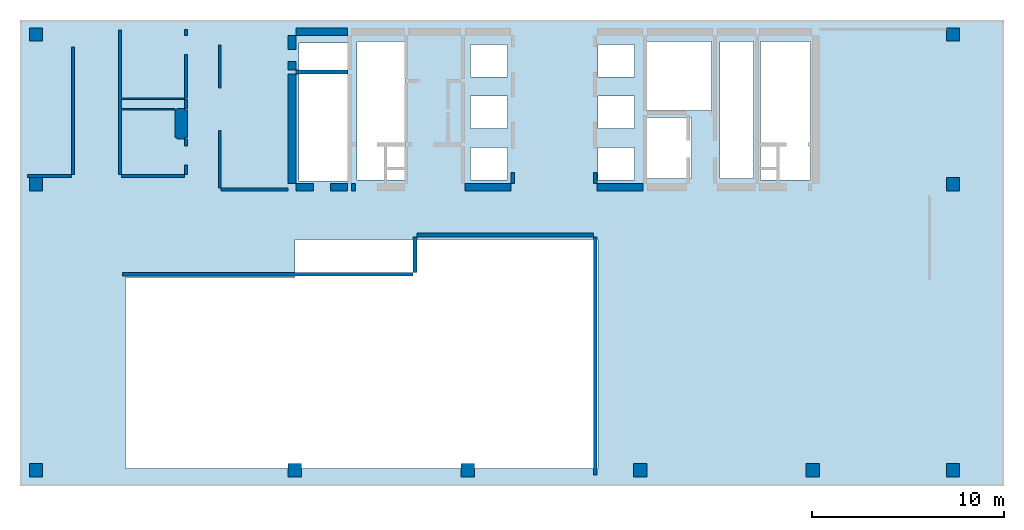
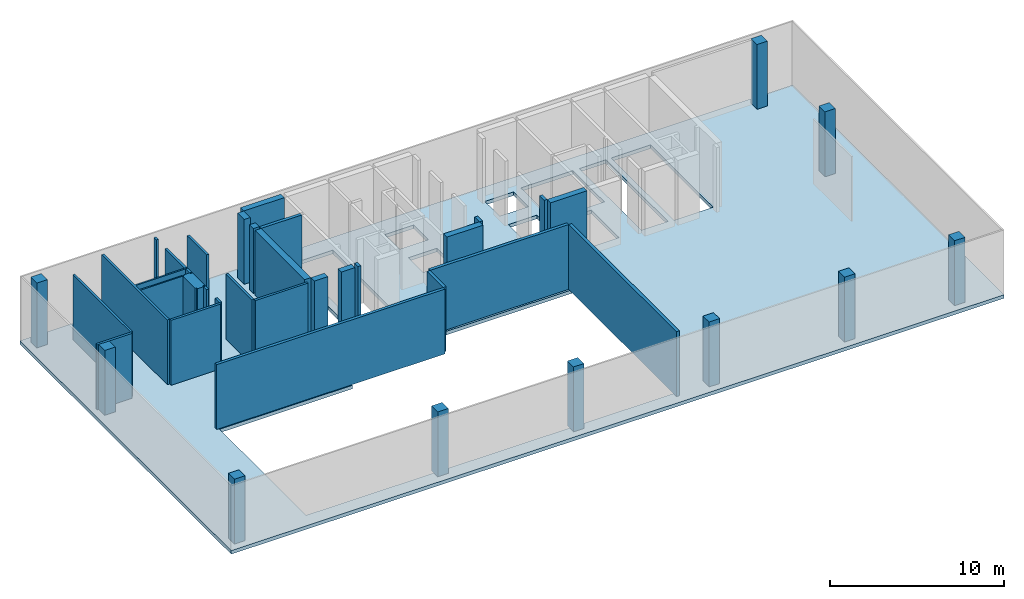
# One storey, part 1 of 3: 29 walls, 10 columns, 1 slab.
"""IFC4 building model written with IfcOpenShell, lengths in millimetres."""

from ifc_helpers import new_model, si_unit, frame, origin, place, context, project, spatial, triangles, element, save


model = new_model("IFC4")

# Units and contexts
model_context = context("Model", 3, precision=0.001, world=origin())
ifc_project = project(units=[si_unit("LENGTHUNIT", "METRE", prefix="MILLI"), si_unit("AREAUNIT", "SQUARE_METRE"), si_unit("VOLUMEUNIT", "CUBIC_METRE")], contexts=[model_context])

# Site, building, storey
site_placement = place(None, origin())
site = spatial("IfcSite", under=ifc_project, at=site_placement, Name="Site", CompositionType="ELEMENT")
building_placement = place(site_placement, origin())
building = spatial("IfcBuilding", under=site, at=building_placement, Name="INNOCEAN", CompositionType="ELEMENT")
storey_placement = place(building_placement, frame((0.0, 0.0, 25400.0)))
storey = spatial("IfcBuildingStorey", under=building, at=storey_placement, Name="F06", CompositionType="ELEMENT", Elevation=25400.0)

# Columns
column_1_placement = place(storey_placement, origin())
element("IfcColumn", 1, at=column_1_placement, inside=storey, Name="F06_Columns_F06_001", context=model_context, shape_type="Tessellation", body=[
    triangles([(40114.8, 2023.7, 0.0), (40114.8, 2722.3, 4550.0), (40114.8, 2722.3, 0.0), (40114.8, 2023.7, 4550.0), (40813.0, 2722.3, 4550.0), (40813.0, 2023.7, 0.0), (40813.0, 2722.3, 0.0), (40813.0, 2023.7, 4550.0)], [[1, 2, 3], [1, 4, 2], [5, 6, 7], [8, 6, 5], [6, 8, 1], [1, 8, 4], [5, 7, 3], [5, 3, 2], [3, 7, 1], [1, 7, 6], [5, 2, 4], [5, 4, 8]], closed=True),
])
column_2_placement = place(storey_placement, origin())
element("IfcColumn", 2, at=column_2_placement, inside=storey, Name="F06_Columns_F06_002", context=model_context, shape_type="Tessellation", body=[
    triangles([(47413.4, 24721.0, 0.0), (47413.4, 24721.0, 4550.0), (47413.4, 25419.5, 0.0), (47413.4, 25419.5, 4550.0), (48111.6, 24721.0, 4550.0), (48111.6, 24721.0, 0.0), (48111.6, 25419.5, 0.0), (48111.6, 25419.5, 4550.0)], [[1, 2, 3], [3, 2, 4], [5, 6, 7], [5, 7, 8], [6, 5, 1], [1, 5, 2], [8, 7, 3], [8, 3, 4], [1, 3, 6], [3, 7, 6], [4, 2, 5], [8, 4, 5]], closed=True),
])
column_3_placement = place(storey_placement, origin())
element("IfcColumn", 3, at=column_3_placement, inside=storey, Name="F06_Columns_F06_003", context=model_context, shape_type="Tessellation", body=[
    triangles([(47413.4, 16922.4, 0.0), (47413.4, 16922.4, 4550.0), (47413.4, 17620.9, 0.0), (47413.4, 17620.9, 4550.0), (48111.6, 16922.4, 4550.0), (48111.6, 16922.4, 0.0), (48111.6, 17620.9, 0.0), (48111.6, 17620.9, 4550.0)], [[1, 2, 3], [3, 2, 4], [5, 6, 7], [5, 7, 8], [6, 5, 1], [1, 5, 2], [8, 7, 3], [8, 3, 4], [1, 3, 6], [3, 7, 6], [4, 2, 5], [8, 4, 5]], closed=True),
])
column_4_placement = place(storey_placement, origin())
element("IfcColumn", 4, at=column_4_placement, inside=storey, Name="F06_Columns_F06_004", context=model_context, shape_type="Tessellation", body=[
    triangles([(13129.0, 2023.7, 0.0), (13129.0, 2722.3, 4550.0), (13129.0, 2722.3, 0.0), (13129.0, 2023.7, 4550.0), (13827.2, 2722.3, 4550.0), (13827.2, 2023.7, 0.0), (13827.2, 2722.3, 0.0), (13827.2, 2023.7, 4550.0)], [[1, 2, 3], [1, 4, 2], [5, 6, 7], [8, 6, 5], [6, 8, 1], [1, 8, 4], [5, 7, 3], [5, 3, 2], [3, 7, 1], [1, 7, 6], [5, 2, 4], [5, 4, 8]], closed=True),
])
column_5_placement = place(storey_placement, origin())
element("IfcColumn", 5, at=column_5_placement, inside=storey, Name="F06_Columns_F06_005", context=model_context, shape_type="Tessellation", body=[
    triangles([(47413.4, 2023.7, 0.0), (47413.4, 2722.3, 4550.0), (47413.4, 2722.3, 0.0), (47413.4, 2023.7, 4550.0), (48111.6, 2722.3, 4550.0), (48111.6, 2023.7, 0.0), (48111.6, 2722.3, 0.0), (48111.6, 2023.7, 4550.0)], [[1, 2, 3], [1, 4, 2], [5, 6, 7], [8, 6, 5], [6, 8, 1], [1, 8, 4], [5, 7, 3], [5, 3, 2], [3, 7, 1], [1, 7, 6], [5, 2, 4], [5, 4, 8]], closed=True),
])
column_6_placement = place(storey_placement, origin())
element("IfcColumn", 6, at=column_6_placement, inside=storey, Name="F06_Columns_F06_006", context=model_context, shape_type="Tessellation", body=[
    triangles([(-363.9, 2023.7, 0.0), (-363.9, 2722.3, 4550.0), (-363.9, 2722.3, 0.0), (-363.9, 2023.7, 4550.0), (334.3, 2722.3, 4550.0), (334.3, 2023.7, 0.0), (334.3, 2722.3, 0.0), (334.3, 2023.7, 4550.0)], [[1, 2, 3], [1, 4, 2], [5, 6, 7], [8, 6, 5], [6, 8, 1], [1, 8, 4], [5, 7, 3], [5, 3, 2], [3, 7, 1], [1, 7, 6], [5, 2, 4], [5, 4, 8]], closed=True),
])
column_7_placement = place(storey_placement, origin())
element("IfcColumn", 7, at=column_7_placement, inside=storey, Name="F06_Columns_F06_007", context=model_context, shape_type="Tessellation", body=[
    triangles([(-363.9, 24721.0, 0.0), (-363.9, 24721.0, 4550.0), (-363.9, 25419.5, 0.0), (-363.9, 25419.5, 4550.0), (334.3, 24721.0, 4550.0), (334.3, 24721.0, 0.0), (334.3, 25419.5, 0.0), (334.3, 25419.5, 4550.0)], [[1, 2, 3], [3, 2, 4], [5, 6, 7], [5, 7, 8], [6, 5, 1], [1, 5, 2], [8, 7, 3], [8, 3, 4], [3, 7, 1], [1, 7, 6], [8, 4, 2], [8, 2, 5]], closed=True),
])
column_8_placement = place(storey_placement, origin())
element("IfcColumn", 8, at=column_8_placement, inside=storey, Name="F06_Columns_F06_008", context=model_context, shape_type="Tessellation", body=[
    triangles([(31128.0, 2023.7, 0.0), (31128.0, 2722.3, 4550.0), (31128.0, 2722.3, 0.0), (31128.0, 2023.7, 4550.0), (31826.2, 2722.3, 4550.0), (31826.2, 2023.7, 0.0), (31826.2, 2722.3, 0.0), (31826.2, 2023.7, 4550.0)], [[1, 2, 3], [1, 4, 2], [5, 6, 7], [8, 6, 5], [6, 8, 1], [1, 8, 4], [5, 7, 3], [5, 3, 2], [3, 7, 1], [1, 7, 6], [5, 2, 4], [5, 4, 8]], closed=True),
])
column_9_placement = place(storey_placement, origin())
element("IfcColumn", 9, at=column_9_placement, inside=storey, Name="F06_Columns_F06_009", context=model_context, shape_type="Tessellation", body=[
    triangles([(22128.5, 2023.7, 0.0), (22128.5, 2722.3, 4550.0), (22128.5, 2722.3, 0.0), (22128.5, 2023.7, 4550.0), (22826.7, 2722.3, 4550.0), (22826.7, 2023.7, 0.0), (22826.7, 2722.3, 0.0), (22826.7, 2023.7, 4550.0)], [[1, 2, 3], [1, 4, 2], [5, 6, 7], [8, 6, 5], [6, 8, 1], [1, 8, 4], [5, 7, 3], [5, 3, 2], [3, 7, 1], [1, 7, 6], [5, 2, 4], [5, 4, 8]], closed=True),
])
column_10_placement = place(storey_placement, origin())
element("IfcColumn", 10, at=column_10_placement, inside=storey, Name="F06_Columns_F06_010", context=model_context, shape_type="Tessellation", body=[
    triangles([(-363.9, 16922.4, 0.0), (-363.9, 16922.4, 4550.0), (-363.9, 17620.9, 0.0), (-363.9, 17620.9, 4550.0), (334.3, 16922.4, 4550.0), (334.3, 16922.4, 0.0), (334.3, 17620.9, 0.0), (334.3, 17620.9, 4550.0)], [[1, 2, 3], [3, 2, 4], [5, 6, 7], [5, 7, 8], [6, 5, 1], [1, 5, 2], [8, 7, 3], [8, 3, 4], [3, 7, 1], [1, 7, 6], [8, 4, 2], [8, 2, 5]], closed=True),
])

# Slab
slab_placement = place(storey_placement, origin())
element("IfcSlab", 11, at=slab_placement, inside=storey, Name="F06_Slab_F06_001", context=model_context, shape_type="Tessellation", body=[
    triangles([(-846.215139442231, 25825.974025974, 0.0), (50420.3187250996, 25825.974025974, -250.0), (-846.215139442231, 25825.974025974, -250.0), (50420.3187250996, 25825.974025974, 0.0), (-846.215139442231, 1552.38095238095, 0.0), (-846.215139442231, 1552.38095238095, -250.0), (50420.3187250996, 1552.38095238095, 0.0), (50420.3187250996, 1552.38095238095, -250.0), (13468.9243027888, 12419.0476190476, 0.0), (4654.18326693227, 12419.0476190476, 0.0), (4654.18326693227, 12419.0476190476, -250.0), (13468.9243027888, 12419.0476190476, -250.0), (13468.9243027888, 14394.8051948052, 0.0), (13468.9243027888, 14394.8051948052, -250.0), (29264.9402390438, 14394.8051948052, 0.0), (29264.9402390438, 14394.8051948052, -250.0), (29264.9402390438, 2469.69696969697, 0.0), (29264.9402390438, 2469.69696969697, -250.0), (4654.18326693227, 2469.69696969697, 0.0), (4654.18326693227, 2469.69696969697, -250.0), (31168.9243027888, 19193.0735930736, 0.0), (29264.9402390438, 19193.0735930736, 0.0), (29264.9402390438, 19193.0735930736, -250.0), (31168.9243027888, 19193.0735930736, -250.0), (29264.9402390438, 17499.5670995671, 0.0), (29264.9402390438, 17499.5670995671, -250.0), (31168.9243027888, 17499.5670995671, 0.0), (31168.9243027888, 17499.5670995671, -250.0), (24540.2390438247, 19193.0735930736, -250.0), (22636.2549800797, 19193.0735930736, 0.0), (22636.2549800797, 19193.0735930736, -250.0), (24540.2390438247, 19193.0735930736, 0.0), (22636.2549800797, 17499.5670995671, 0.0), (22636.2549800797, 17499.5670995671, -250.0), (24540.2390438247, 17499.5670995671, 0.0), (24540.2390438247, 17499.5670995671, -250.0), (40336.2549800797, 24696.9696969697, -250.0), (37727.0916334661, 24696.9696969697, 0.0), (37727.0916334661, 24696.9696969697, -250.0), (40336.2549800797, 24696.9696969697, 0.0), (37727.0916334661, 17499.5670995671, 0.0), (37727.0916334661, 17499.5670995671, -250.0), (40336.2549800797, 17499.5670995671, 0.0), (40336.2549800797, 17499.5670995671, -250.0), (37374.5019920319, 24696.9696969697, 0.0), (35611.5537848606, 24696.9696969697, 0.0), (35611.5537848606, 24696.9696969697, -250.0), (37374.5019920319, 24696.9696969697, -250.0), (35611.5537848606, 17570.1298701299, 0.0), (35611.5537848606, 17570.1298701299, -250.0), (37374.5019920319, 17570.1298701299, 0.0), (37374.5019920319, 17570.1298701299, -250.0), (34130.6772908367, 20745.4545454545, -250.0), (31733.0677290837, 20745.4545454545, 0.0), (31733.0677290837, 20745.4545454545, -250.0), (34130.6772908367, 20745.4545454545, 0.0), (31733.0677290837, 17570.1298701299, 0.0), (31733.0677290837, 17570.1298701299, -250.0), (34130.6772908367, 17570.1298701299, 0.0), (34130.6772908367, 17570.1298701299, -250.0), (35188.4462151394, 24696.9696969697, 0.0), (31733.0677290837, 24696.9696969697, 0.0), (31733.0677290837, 24696.9696969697, -250.0), (35188.4462151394, 24696.9696969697, -250.0), (31733.0677290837, 21098.2683982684, 0.0), (31733.0677290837, 21098.2683982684, -250.0), (35188.4462151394, 21098.2683982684, 0.0), (35188.4462151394, 21098.2683982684, -250.0), (31168.9243027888, 21874.4588744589, 0.0), (29264.9402390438, 21874.4588744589, 0.0), (29264.9402390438, 21874.4588744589, -250.0), (31168.9243027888, 21874.4588744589, -250.0), (29264.9402390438, 20180.9523809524, 0.0), (29264.9402390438, 20180.9523809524, -250.0), (31168.9243027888, 20180.9523809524, 0.0), (31168.9243027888, 20180.9523809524, -250.0), (24540.2390438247, 21874.4588744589, -250.0), (22636.2549800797, 21874.4588744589, 0.0), (22636.2549800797, 21874.4588744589, -250.0), (24540.2390438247, 21874.4588744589, 0.0), (22636.2549800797, 20180.9523809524, 0.0), (22636.2549800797, 20180.9523809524, -250.0), (24540.2390438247, 20180.9523809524, 0.0), (24540.2390438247, 20180.9523809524, -250.0), (31168.9243027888, 24555.8441558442, 0.0), (29264.9402390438, 24555.8441558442, 0.0), (29264.9402390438, 24555.8441558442, -250.0), (31168.9243027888, 24555.8441558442, -250.0), (29264.9402390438, 22862.3376623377, 0.0), (29264.9402390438, 22862.3376623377, -250.0), (31168.9243027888, 22862.3376623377, 0.0), (31168.9243027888, 22862.3376623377, -250.0), (24540.2390438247, 24555.8441558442, -250.0), (22636.2549800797, 24555.8441558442, 0.0), (22636.2549800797, 24555.8441558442, -250.0), (24540.2390438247, 24555.8441558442, 0.0), (22636.2549800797, 22862.3376623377, 0.0), (22636.2549800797, 22862.3376623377, -250.0), (24540.2390438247, 22862.3376623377, 0.0), (24540.2390438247, 22862.3376623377, -250.0), (19251.3944223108, 24696.9696969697, 0.0), (16712.7490039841, 24696.9696969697, 0.0), (16712.7490039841, 24696.9696969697, -250.0), (19251.3944223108, 24696.9696969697, -250.0), (16712.7490039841, 17499.5670995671, 0.0), (16712.7490039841, 17499.5670995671, -250.0), (19251.3944223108, 17499.5670995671, 0.0), (19251.3944223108, 17499.5670995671, -250.0), (16219.1235059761, 24626.4069264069, 0.0), (13680.4780876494, 24626.4069264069, 0.0), (13680.4780876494, 24626.4069264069, -250.0), (16219.1235059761, 24626.4069264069, -250.0), (13680.4780876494, 17429.0043290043, 0.0), (13680.4780876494, 17429.0043290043, -250.0), (16219.1235059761, 17429.0043290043, 0.0), (16219.1235059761, 17429.0043290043, -250.0)], [[1, 2, 3], [1, 4, 2], [5, 1, 6], [6, 1, 3], [4, 7, 2], [2, 7, 8], [7, 6, 8], [7, 5, 6], [9, 10, 11], [9, 11, 12], [13, 9, 12], [13, 12, 14], [15, 13, 14], [15, 14, 16], [17, 15, 16], [17, 16, 18], [19, 17, 18], [19, 18, 20], [10, 19, 20], [10, 20, 11], [21, 22, 23], [21, 23, 24], [22, 25, 26], [22, 26, 23], [27, 21, 24], [27, 24, 28], [25, 27, 28], [25, 28, 26], [29, 30, 31], [32, 30, 29], [30, 33, 34], [30, 34, 31], [35, 32, 29], [35, 29, 36], [34, 35, 36], [33, 35, 34], [37, 38, 39], [40, 38, 37], [38, 41, 42], [38, 42, 39], [43, 40, 37], [43, 37, 44], [42, 43, 44], [41, 43, 42], [45, 46, 47], [45, 47, 48], [46, 49, 50], [46, 50, 47], [51, 45, 48], [51, 48, 52], [49, 51, 52], [49, 52, 50], [53, 54, 55], [56, 54, 53], [54, 57, 58], [54, 58, 55], [59, 56, 53], [59, 53, 60], [58, 59, 60], [57, 59, 58], [61, 62, 63], [61, 63, 64], [62, 65, 66], [62, 66, 63], [67, 61, 64], [67, 64, 68], [65, 67, 68], [65, 68, 66], [69, 70, 71], [69, 71, 72], [70, 73, 74], [70, 74, 71], [75, 69, 72], [75, 72, 76], [73, 75, 76], [73, 76, 74], [77, 78, 79], [80, 78, 77], [78, 81, 82], [78, 82, 79], [83, 80, 77], [83, 77, 84], [82, 83, 84], [81, 83, 82], [85, 86, 87], [85, 87, 88], [86, 89, 90], [86, 90, 87], [91, 85, 88], [91, 88, 92], [89, 91, 92], [89, 92, 90], [93, 94, 95], [96, 94, 93], [94, 97, 98], [94, 98, 95], [99, 96, 93], [99, 93, 100], [98, 99, 100], [97, 99, 98], [101, 102, 103], [101, 103, 104], [102, 105, 106], [102, 106, 103], [107, 101, 104], [107, 104, 108], [105, 107, 108], [105, 108, 106], [109, 110, 111], [109, 111, 112], [110, 113, 114], [110, 114, 111], [115, 109, 112], [115, 112, 116], [113, 115, 116], [113, 116, 114], [4, 43, 7], [7, 43, 17], [43, 41, 17], [51, 49, 41], [41, 49, 17], [4, 40, 43], [49, 15, 17], [59, 15, 49], [59, 57, 15], [57, 27, 15], [49, 56, 59], [67, 56, 49], [57, 21, 27], [27, 25, 15], [21, 54, 75], [54, 65, 75], [56, 65, 54], [46, 61, 67], [75, 22, 21], [65, 69, 75], [75, 73, 22], [65, 91, 69], [25, 35, 15], [62, 85, 91], [91, 89, 69], [69, 89, 70], [22, 32, 25], [25, 32, 35], [73, 32, 22], [35, 33, 15], [62, 86, 85], [73, 83, 32], [70, 83, 73], [70, 80, 83], [32, 81, 30], [83, 81, 32], [30, 107, 33], [81, 107, 30], [89, 99, 70], [70, 99, 80], [81, 78, 107], [99, 78, 80], [89, 96, 99], [86, 96, 89], [99, 97, 78], [105, 115, 13], [19, 5, 17], [115, 113, 13], [94, 101, 97], [78, 101, 107], [97, 101, 78], [13, 10, 9], [19, 10, 5], [113, 10, 13], [102, 109, 105], [105, 109, 115], [102, 110, 109], [113, 1, 10], [110, 1, 113], [10, 1, 5], [4, 1, 40], [40, 1, 38], [38, 1, 45], [45, 1, 46], [46, 1, 61], [61, 1, 62], [62, 1, 86], [86, 1, 96], [96, 1, 94], [94, 1, 101], [101, 1, 102], [102, 1, 110], [5, 7, 17], [13, 15, 105], [105, 15, 107], [107, 15, 33], [49, 46, 67], [45, 51, 38], [38, 51, 41], [57, 54, 21], [65, 62, 91], [67, 65, 56], [44, 2, 8], [44, 8, 18], [42, 44, 18], [50, 52, 42], [50, 42, 18], [37, 2, 44], [16, 50, 18], [16, 60, 50], [58, 60, 16], [28, 58, 16], [53, 50, 60], [53, 68, 50], [24, 58, 28], [26, 28, 16], [55, 24, 76], [66, 55, 76], [66, 53, 55], [64, 47, 68], [23, 76, 24], [72, 66, 76], [74, 76, 23], [92, 66, 72], [36, 26, 16], [88, 63, 92], [90, 92, 72], [90, 72, 71], [29, 23, 26], [29, 26, 36], [29, 74, 23], [34, 36, 16], [87, 63, 88], [84, 74, 29], [84, 71, 74], [77, 71, 84], [82, 29, 31], [82, 84, 29], [108, 31, 34], [108, 82, 31], [100, 90, 71], [100, 71, 77], [79, 82, 108], [79, 100, 77], [93, 90, 100], [93, 87, 90], [98, 100, 79], [116, 106, 14], [6, 20, 18], [114, 116, 14], [104, 95, 98], [104, 79, 108], [104, 98, 79], [11, 14, 12], [11, 20, 6], [11, 114, 14], [112, 103, 106], [112, 106, 116], [111, 103, 112], [3, 114, 11], [3, 111, 114], [3, 11, 6], [3, 2, 37], [3, 37, 39], [3, 39, 48], [3, 48, 47], [3, 47, 64], [3, 64, 63], [3, 63, 87], [3, 87, 93], [3, 93, 95], [3, 95, 104], [3, 104, 103], [3, 103, 111], [8, 6, 18], [16, 14, 106], [16, 106, 108], [16, 108, 34], [47, 50, 68], [52, 48, 39], [52, 39, 42], [55, 58, 24], [63, 66, 92], [66, 68, 53]], closed=True),
])

# Walls
wall_1_placement = place(storey_placement, origin())
element("IfcWall", 12, at=wall_1_placement, inside=storey, Name="F06_Walls_F06_001", context=model_context, shape_type="Tessellation", body=[
    triangles([(19628.0, 12667.4, 0.0), (4497.6, 12667.4, 0.0), (4497.6, 12667.4, 4550.0), (19628.0, 12667.4, 4550.0), (19628.0, 12476.9, 0.0), (19628.0, 12476.9, 4550.0), (4497.6, 12476.9, 0.0), (4497.6, 12476.9, 4550.0)], [[1, 2, 3], [1, 3, 4], [5, 1, 4], [5, 4, 6], [7, 5, 6], [7, 6, 8], [2, 7, 8], [2, 8, 3], [2, 1, 5], [2, 5, 7], [4, 3, 6], [6, 3, 8]], closed=True),
])
wall_2_placement = place(storey_placement, origin())
element("IfcWall", 13, at=wall_2_placement, inside=storey, Name="F06_Walls_F06_002", context=model_context, shape_type="Tessellation", body=[
    triangles([(13129.0, 16922.4, 0.0), (13129.0, 17074.8, 0.0), (13129.0, 17074.8, 4550.0), (13129.0, 16922.4, 4550.0), (9638.4, 16922.4, 0.0), (9638.4, 16922.4, 4550.0), (9638.4, 17074.8, 0.0), (9638.4, 17074.8, 4550.0)], [[1, 2, 3], [1, 3, 4], [5, 1, 4], [5, 4, 6], [7, 5, 6], [7, 6, 8], [2, 7, 8], [2, 8, 3], [7, 2, 1], [7, 1, 5], [3, 8, 4], [4, 8, 6]], closed=True),
])
wall_3_placement = place(storey_placement, origin())
element("IfcWall", 14, at=wall_3_placement, inside=storey, Name="F06_Walls_F06_003", context=model_context, shape_type="Tessellation", body=[
    triangles([(14436.4, 16922.4, 0.0), (14436.4, 17316.1, 0.0), (14436.4, 17316.1, 4550.0), (14436.4, 16922.4, 4550.0), (13535.2, 16922.4, 4550.0), (13535.2, 16922.4, 0.0), (13535.2, 17316.1, 0.0), (13535.2, 17316.1, 4550.0)], [[1, 2, 3], [1, 3, 4], [1, 4, 5], [6, 1, 5], [7, 6, 5], [7, 5, 8], [7, 8, 3], [2, 7, 3], [7, 2, 1], [7, 1, 6], [3, 8, 4], [4, 8, 5]], closed=True),
])
wall_4_placement = place(storey_placement, origin())
element("IfcWall", 15, at=wall_4_placement, inside=storey, Name="F06_Walls_F06_004", context=model_context, shape_type="Tessellation", body=[
    triangles([(-465.4, 17773.4, 0.0), (-465.4, 17773.4, 4550.0), (1844.7, 17773.4, 4550.0), (1844.7, 17773.4, 0.0), (1844.7, 17620.9, 0.0), (1844.7, 17620.9, 4550.0), (-465.4, 17620.9, 0.0), (-465.4, 17620.9, 4550.0)], [[1, 2, 3], [4, 1, 3], [5, 4, 3], [5, 3, 6], [7, 5, 6], [7, 6, 8], [1, 7, 8], [1, 8, 2], [1, 4, 5], [1, 5, 7], [3, 2, 6], [6, 2, 8]], closed=True),
])
wall_5_placement = place(storey_placement, origin())
element("IfcWall", 16, at=wall_5_placement, inside=storey, Name="F06_Walls_F06_005", context=model_context, shape_type="Tessellation", body=[
    triangles([(7734.4, 17773.4, 0.0), (4434.2, 17773.4, 0.0), (4434.2, 17773.4, 4550.0), (7734.4, 17773.4, 4550.0), (7734.4, 17620.9, 0.0), (7734.4, 17620.9, 4550.0), (4434.2, 17620.9, 0.0), (4434.2, 17620.9, 4550.0)], [[1, 2, 3], [1, 3, 4], [5, 1, 4], [5, 4, 6], [7, 5, 6], [7, 6, 8], [2, 7, 8], [2, 8, 3], [2, 1, 5], [2, 5, 7], [4, 3, 6], [6, 3, 8]], closed=True),
])
wall_6_placement = place(storey_placement, origin())
element("IfcWall", 17, at=wall_6_placement, inside=storey, Name="F06_Walls_F06_006", context=model_context, shape_type="Tessellation", body=[
    triangles([(7734.4, 17773.4, 0.0), (7886.7, 17773.4, 0.0), (7886.7, 17773.4, 4550.0), (7734.4, 17773.4, 4550.0), (7734.4, 18268.7, 4550.0), (7734.4, 18268.7, 0.0), (7886.7, 18268.7, 0.0), (7886.7, 18268.7, 4550.0)], [[1, 2, 3], [1, 3, 4], [1, 4, 5], [6, 1, 5], [7, 6, 5], [7, 5, 8], [7, 8, 3], [2, 7, 3], [6, 2, 1], [6, 7, 2], [3, 5, 4], [8, 5, 3]], closed=True),
])
wall_7_placement = place(storey_placement, origin())
element("IfcWall", 18, at=wall_7_placement, inside=storey, Name="F06_Walls_F06_007", context=model_context, shape_type="Tessellation", body=[
    triangles([(9638.4, 20059.6, 0.0), (9486.1, 20059.6, 0.0), (9486.1, 20059.6, 4550.0), (9638.4, 20059.6, 4550.0), (9638.4, 17074.8, 0.0), (9638.4, 17074.8, 4550.0), (9486.1, 17074.8, 0.0), (9486.1, 17074.8, 4550.0)], [[1, 2, 3], [1, 3, 4], [5, 1, 4], [5, 4, 6], [7, 5, 6], [7, 6, 8], [2, 7, 8], [2, 8, 3], [2, 1, 5], [2, 5, 7], [4, 3, 6], [6, 3, 8]], closed=True),
])
wall_8_placement = place(storey_placement, origin())
element("IfcWall", 19, at=wall_8_placement, inside=storey, Name="F06_Walls_F06_008", context=model_context, shape_type="Tessellation", body=[
    triangles([(7734.4, 19615.0, 0.0), (7734.4, 19272.1, 0.0), (7734.4, 19272.1, 4550.0), (7734.4, 19615.0, 4550.0), (7886.7, 19615.0, 0.0), (7886.7, 19615.0, 4550.0), (7886.7, 19272.1, 0.0), (7886.7, 19272.1, 4550.0)], [[1, 2, 3], [1, 3, 4], [5, 1, 4], [5, 4, 6], [7, 5, 6], [7, 6, 8], [2, 7, 8], [2, 8, 3], [1, 5, 7], [1, 7, 2], [6, 4, 8], [8, 4, 3]], closed=True),
])
wall_9_placement = place(storey_placement, origin())
element("IfcWall", 20, at=wall_9_placement, inside=storey, Name="F06_Walls_F06_009", context=model_context, shape_type="Tessellation", body=[
    triangles([(7239.4, 19716.6, 0.0), (7340.0, 19716.6, 0.0), (7340.0, 19716.6, 4550.0), (7239.4, 19716.6, 4550.0), (7239.4, 21126.5, 0.0), (7239.4, 21126.5, 4550.0), (7340.9, 21126.5, 0.0), (7340.9, 21126.5, 4550.0), (7340.9, 21215.4, 0.0), (7340.9, 21215.4, 4550.0), (7734.4, 21215.4, 0.0), (7734.4, 21215.4, 4550.0), (7734.4, 21126.5, 0.0), (7734.4, 21126.5, 4550.0), (7886.7, 21126.5, 0.0), (7886.7, 21126.5, 4550.0), (7886.7, 19716.6, 0.0), (7886.7, 19716.6, 4550.0), (7735.0, 19716.6, 0.0), (7735.0, 19716.6, 4550.0), (7735.0, 19715.0, 4550.0), (7735.0, 19715.0, 0.0), (7734.4, 19715.0, 0.0), (7734.4, 19715.0, 4550.0), (7734.4, 19615.0, 0.0), (7734.4, 19615.0, 4550.0), (7340.9, 19615.0, 0.0), (7340.9, 19615.0, 4550.0), (7340.9, 19715.0, 0.0), (7340.9, 19715.0, 4550.0), (7340.0, 19715.0, 4550.0), (7340.0, 19715.0, 0.0)], [[1, 2, 3], [1, 3, 4], [5, 1, 4], [5, 4, 6], [7, 5, 6], [7, 6, 8], [9, 7, 8], [9, 8, 10], [11, 9, 10], [11, 10, 12], [13, 11, 12], [13, 12, 14], [15, 13, 14], [15, 14, 16], [17, 15, 16], [17, 16, 18], [19, 17, 18], [19, 18, 20], [19, 20, 21], [22, 19, 21], [23, 22, 21], [23, 21, 24], [25, 23, 24], [25, 24, 26], [27, 25, 26], [27, 26, 28], [29, 27, 28], [29, 28, 30], [29, 30, 31], [32, 29, 31], [32, 31, 3], [2, 32, 3], [19, 22, 23], [27, 23, 25], [29, 19, 23], [29, 23, 27], [2, 29, 32], [2, 19, 29], [15, 17, 19], [13, 15, 19], [7, 19, 2], [7, 13, 19], [9, 11, 13], [9, 13, 7], [5, 2, 1], [5, 7, 2], [21, 20, 24], [24, 28, 26], [20, 30, 24], [24, 30, 28], [30, 3, 31], [20, 3, 30], [18, 16, 20], [16, 14, 20], [20, 8, 3], [14, 8, 20], [12, 10, 14], [14, 10, 8], [3, 6, 4], [8, 6, 3]], closed=True),
])
wall_10_placement = place(storey_placement, origin())
element("IfcWall", 21, at=wall_10_placement, inside=storey, Name="F06_Walls_F06_010", context=model_context, shape_type="Tessellation", body=[
    triangles([(13535.2, 17316.1, 0.0), (13535.2, 23019.0, 0.0), (13535.2, 23019.0, 4550.0), (13535.2, 17316.1, 4550.0), (13129.0, 17316.1, 0.0), (13129.0, 17316.1, 4550.0), (13129.0, 23019.0, 0.0), (13129.0, 23019.0, 4550.0)], [[1, 2, 3], [1, 3, 4], [5, 1, 4], [5, 4, 6], [7, 5, 6], [7, 6, 8], [2, 7, 8], [2, 8, 3], [7, 2, 1], [7, 1, 5], [3, 8, 4], [4, 8, 6]], closed=True),
])
wall_11_placement = place(storey_placement, origin())
element("IfcWall", 22, at=wall_11_placement, inside=storey, Name="F06_Walls_F06_011", context=model_context, shape_type="Tessellation", body=[
    triangles([(1844.7, 18002.0, 0.0), (1844.7, 17773.4, 0.0), (1844.7, 17773.4, 4550.0), (1844.7, 18002.0, 4550.0), (1844.7, 24403.4, 0.0), (1844.7, 24403.4, 4550.0), (1844.7, 24416.1, 0.0), (1844.7, 24416.1, 4550.0), (1984.4, 24416.1, 0.0), (1984.4, 24416.1, 4550.0), (1984.4, 24403.4, 0.0), (1984.4, 24403.4, 4550.0), (1984.4, 18002.0, 0.0), (1984.4, 18002.0, 4550.0), (1984.4, 17773.4, 0.0), (1984.4, 17773.4, 4550.0)], [[1, 2, 3], [1, 3, 4], [5, 1, 4], [5, 4, 6], [7, 5, 6], [7, 6, 8], [9, 7, 8], [9, 8, 10], [11, 9, 10], [11, 10, 12], [13, 11, 12], [13, 12, 14], [15, 13, 14], [15, 14, 16], [2, 15, 16], [2, 16, 3], [1, 13, 15], [1, 15, 2], [5, 11, 13], [5, 13, 1], [7, 9, 11], [7, 11, 5], [14, 4, 16], [16, 4, 3], [12, 6, 14], [14, 6, 4], [10, 8, 12], [12, 8, 6]], closed=True),
])
wall_12_placement = place(storey_placement, origin())
element("IfcWall", 23, at=wall_12_placement, inside=storey, Name="F06_Walls_F06_012", context=model_context, shape_type="Tessellation", body=[
    triangles([(4281.8, 25317.9, 0.0), (4281.8, 17773.4, 0.0), (4281.8, 17773.4, 4550.0), (4281.8, 25317.9, 4550.0), (4434.2, 25317.9, 4550.0), (4434.2, 25317.9, 0.0), (4434.2, 21774.3, 0.0), (4434.2, 21774.3, 4550.0), (7734.4, 21774.3, 0.0), (7734.4, 21774.3, 4550.0), (7734.4, 21672.7, 4550.0), (7734.4, 21672.7, 0.0), (4434.2, 21672.7, 0.0), (4434.2, 21672.7, 4550.0), (4434.2, 21215.4, 4550.0), (4434.2, 21215.4, 0.0), (7239.4, 21215.4, 0.0), (7239.4, 21215.4, 4550.0), (7239.4, 21126.5, 0.0), (7239.4, 21126.5, 4550.0), (4434.2, 21126.5, 0.0), (4434.2, 21126.5, 4550.0), (4434.2, 17773.4, 0.0), (4434.2, 17773.4, 4550.0)], [[1, 2, 3], [1, 3, 4], [1, 4, 5], [6, 1, 5], [7, 6, 5], [7, 5, 8], [9, 7, 8], [9, 8, 10], [9, 10, 11], [12, 9, 11], [13, 12, 11], [13, 11, 14], [13, 14, 15], [16, 13, 15], [17, 16, 15], [17, 15, 18], [19, 17, 18], [19, 18, 20], [21, 19, 20], [21, 20, 22], [23, 21, 22], [23, 22, 24], [23, 24, 3], [2, 23, 3], [21, 17, 19], [21, 23, 2], [16, 17, 21], [1, 6, 7], [2, 1, 7], [2, 7, 13], [2, 13, 16], [2, 16, 21], [12, 13, 7], [12, 7, 9], [18, 22, 20], [24, 22, 3], [18, 15, 22], [5, 4, 8], [4, 3, 8], [8, 3, 14], [14, 3, 15], [15, 3, 22], [14, 11, 8], [8, 11, 10]], closed=True),
])
wall_13_placement = place(storey_placement, origin())
element("IfcWall", 24, at=wall_13_placement, inside=storey, Name="F06_Walls_F06_013", context=model_context, shape_type="Tessellation", body=[
    triangles([(7886.7, 21672.7, 0.0), (7886.7, 21672.7, 4550.0), (7886.7, 21215.4, 4550.0), (7886.7, 21215.4, 0.0), (7734.4, 21215.4, 0.0), (7734.4, 21215.4, 4550.0), (7734.4, 21672.7, 4550.0), (7734.4, 21672.7, 0.0)], [[1, 2, 3], [4, 1, 3], [5, 4, 3], [5, 3, 6], [5, 6, 7], [8, 5, 7], [1, 8, 7], [1, 7, 2], [1, 4, 5], [8, 1, 5], [3, 2, 6], [2, 7, 6]], closed=True),
])
wall_14_placement = place(storey_placement, origin())
element("IfcWall", 25, at=wall_14_placement, inside=storey, Name="F06_Walls_F06_014", context=model_context, shape_type="Tessellation", body=[
    triangles([(7886.7, 21774.3, 0.0), (7886.7, 24022.4, 0.0), (7886.7, 24022.4, 4550.0), (7886.7, 21774.3, 4550.0), (7734.4, 21774.3, 0.0), (7734.4, 21774.3, 4550.0), (7734.4, 24022.4, 0.0), (7734.4, 24022.4, 4550.0)], [[1, 2, 3], [1, 3, 4], [5, 1, 4], [5, 4, 6], [7, 5, 6], [7, 6, 8], [2, 7, 8], [2, 8, 3], [2, 1, 5], [7, 2, 5], [4, 3, 6], [3, 8, 6]], closed=True),
])
wall_15_placement = place(storey_placement, origin())
element("IfcWall", 26, at=wall_15_placement, inside=storey, Name="F06_Walls_F06_015", context=model_context, shape_type="Tessellation", body=[
    triangles([(16226.2, 23019.0, 0.0), (16226.2, 23222.2, 0.0), (16226.2, 23222.2, 4550.0), (16226.2, 23019.0, 4550.0), (13535.2, 23019.0, 0.0), (13535.2, 23019.0, 4550.0), (13535.2, 23222.2, 0.0), (13535.2, 23222.2, 4550.0)], [[1, 2, 3], [1, 3, 4], [5, 1, 4], [5, 4, 6], [7, 5, 6], [7, 6, 8], [2, 7, 8], [2, 8, 3], [7, 2, 1], [7, 1, 5], [3, 8, 4], [4, 8, 6]], closed=True),
])
wall_16_placement = place(storey_placement, origin())
element("IfcWall", 27, at=wall_16_placement, inside=storey, Name="F06_Walls_F06_016", context=model_context, shape_type="Tessellation", body=[
    triangles([(9638.4, 22282.3, 0.0), (9638.4, 24517.7, 0.0), (9638.4, 24517.7, 4550.0), (9638.4, 22282.3, 4550.0), (9486.1, 22282.3, 0.0), (9486.1, 22282.3, 4550.0), (9486.1, 24517.7, 0.0), (9486.1, 24517.7, 4550.0)], [[1, 2, 3], [1, 3, 4], [5, 1, 4], [5, 4, 6], [7, 5, 6], [7, 6, 8], [2, 7, 8], [2, 8, 3], [7, 2, 1], [7, 1, 5], [3, 8, 4], [4, 8, 6]], closed=True),
])
wall_17_placement = place(storey_placement, origin())
element("IfcWall", 28, at=wall_17_placement, inside=storey, Name="F06_Walls_F06_017", context=model_context, shape_type="Tessellation", body=[
    triangles([(13535.2, 23666.8, 0.0), (13535.2, 23666.8, 4550.0), (13535.2, 23222.2, 4550.0), (13535.2, 23222.2, 0.0), (13129.0, 23222.2, 0.0), (13129.0, 23222.2, 4550.0), (13129.0, 23666.8, 4550.0), (13129.0, 23666.8, 0.0)], [[1, 2, 3], [4, 1, 3], [5, 4, 3], [5, 3, 6], [5, 6, 7], [8, 5, 7], [1, 8, 7], [1, 7, 2], [8, 1, 4], [8, 4, 5], [2, 7, 3], [3, 7, 6]], closed=True),
])
wall_18_placement = place(storey_placement, origin())
element("IfcWall", 29, at=wall_18_placement, inside=storey, Name="F06_Walls_F06_018", context=model_context, shape_type="Tessellation", body=[
    triangles([(13535.2, 24276.4, 0.0), (13535.2, 25025.8, 0.0), (13535.2, 25025.8, 4550.0), (13535.2, 24276.4, 4550.0), (13129.0, 24276.4, 0.0), (13129.0, 24276.4, 4550.0), (13129.0, 25025.8, 0.0), (13129.0, 25025.8, 4550.0)], [[1, 2, 3], [1, 3, 4], [5, 1, 4], [5, 4, 6], [7, 5, 6], [7, 6, 8], [2, 7, 8], [2, 8, 3], [2, 1, 5], [7, 2, 5], [4, 3, 6], [3, 8, 6]], closed=True),
])
wall_19_placement = place(storey_placement, origin())
element("IfcWall", 30, at=wall_19_placement, inside=storey, Name="F06_Walls_F06_019", context=model_context, shape_type="Tessellation", body=[
    triangles([(7735.0, 25320.0, 0.0), (7735.0, 25317.9, 0.0), (7735.0, 25317.9, 4550.0), (7735.0, 25320.0, 4550.0), (7885.0, 25320.0, 0.0), (7885.0, 25320.0, 4550.0), (7885.0, 25317.9, 0.0), (7885.0, 25317.9, 4550.0), (7886.7, 25317.9, 0.0), (7886.7, 25317.9, 4550.0), (7886.7, 25025.8, 0.0), (7886.7, 25025.8, 4550.0), (7885.0, 25025.8, 0.0), (7885.0, 25025.8, 4550.0), (7885.0, 25025.0, 0.0), (7885.0, 25025.0, 4550.0), (7735.0, 25025.0, 0.0), (7735.0, 25025.0, 4550.0), (7735.0, 25025.8, 0.0), (7735.0, 25025.8, 4550.0), (7734.4, 25025.8, 0.0), (7734.4, 25025.8, 4550.0), (7734.4, 25317.9, 0.0), (7734.4, 25317.9, 4550.0)], [[1, 2, 3], [1, 3, 4], [5, 1, 4], [5, 4, 6], [7, 5, 6], [7, 6, 8], [9, 7, 8], [9, 8, 10], [11, 9, 10], [11, 10, 12], [13, 11, 12], [13, 12, 14], [15, 13, 14], [15, 14, 16], [17, 15, 16], [17, 16, 18], [19, 17, 18], [19, 18, 20], [21, 19, 20], [21, 20, 22], [23, 21, 22], [23, 22, 24], [2, 23, 24], [2, 24, 3], [19, 13, 15], [19, 15, 17], [7, 9, 11], [7, 11, 13], [7, 13, 19], [2, 19, 21], [2, 7, 19], [23, 2, 21], [1, 5, 7], [1, 7, 2], [14, 20, 16], [16, 20, 18], [10, 8, 12], [12, 8, 14], [14, 8, 20], [20, 3, 22], [8, 3, 20], [3, 24, 22], [6, 4, 8], [8, 4, 3]], closed=True),
])
wall_20_placement = place(storey_placement, origin())
element("IfcWall", 31, at=wall_20_placement, inside=storey, Name="F06_Walls_F06_020", context=model_context, shape_type="Tessellation", body=[
    triangles([(19831.0, 14521.8, 0.0), (19831.0, 14521.8, 4550.0), (19831.0, 12667.4, 4550.0), (19831.0, 12667.4, 0.0), (19628.0, 12667.4, 4550.0), (19628.0, 12667.4, 0.0), (19628.0, 14521.8, 4550.0), (19628.0, 14521.8, 0.0)], [[1, 2, 3], [4, 1, 3], [4, 3, 5], [6, 4, 5], [6, 5, 7], [8, 6, 7], [8, 7, 2], [1, 8, 2], [8, 1, 4], [8, 4, 6], [2, 7, 3], [3, 7, 5]], closed=True),
])
wall_21_placement = place(storey_placement, origin())
element("IfcWall", 32, at=wall_21_placement, inside=storey, Name="F06_Walls_F06_021", context=model_context, shape_type="Tessellation", body=[
    triangles([(16226.2, 16922.4, 0.0), (16226.2, 17316.1, 0.0), (16226.2, 17316.1, 4550.0), (16226.2, 16922.4, 4550.0), (15337.6, 16922.4, 0.0), (15337.6, 16922.4, 4550.0), (15337.6, 17316.1, 0.0), (15337.6, 17316.1, 4550.0)], [[1, 2, 3], [1, 3, 4], [5, 1, 4], [5, 4, 6], [7, 5, 6], [7, 6, 8], [2, 7, 8], [2, 8, 3], [7, 2, 1], [7, 1, 5], [3, 8, 4], [4, 8, 6]], closed=True),
])
wall_22_placement = place(storey_placement, origin())
element("IfcWall", 33, at=wall_22_placement, inside=storey, Name="F06_Walls_F06_022", context=model_context, shape_type="Tessellation", body=[
    triangles([(16632.4, 16922.4, 0.0), (16632.4, 17316.1, 0.0), (16632.4, 17316.1, 4550.0), (16632.4, 16922.4, 4550.0), (16429.3, 16922.4, 0.0), (16429.3, 16922.4, 4550.0), (16429.3, 17316.1, 0.0), (16429.3, 17316.1, 4550.0)], [[1, 2, 3], [1, 3, 4], [5, 1, 4], [5, 4, 6], [7, 5, 6], [7, 6, 8], [2, 7, 8], [2, 8, 3], [7, 2, 1], [7, 1, 5], [3, 8, 4], [4, 8, 6]], closed=True),
])
wall_23_placement = place(storey_placement, origin())
element("IfcWall", 34, at=wall_23_placement, inside=storey, Name="F06_Walls_F06_033", context=model_context, shape_type="Tessellation", body=[
    triangles([(16226.2, 25025.8, 0.0), (16226.2, 25419.5, 0.0), (16226.2, 25419.5, 4550.0), (16226.2, 25025.8, 4550.0), (13535.2, 25025.8, 0.0), (13535.2, 25025.8, 4550.0), (13535.2, 25419.5, 0.0), (13535.2, 25419.5, 4550.0)], [[1, 2, 3], [1, 3, 4], [5, 1, 4], [5, 4, 6], [7, 5, 6], [7, 6, 8], [2, 7, 8], [2, 8, 3], [5, 2, 1], [7, 2, 5], [3, 6, 4], [3, 8, 6]], closed=True),
])
wall_24_placement = place(storey_placement, origin())
element("IfcWall", 35, at=wall_24_placement, inside=storey, Name="F06_Walls_F06_036", context=model_context, shape_type="Tessellation", body=[
    triangles([(29020.9, 14521.8, 0.0), (29020.9, 2125.4, 0.0), (29020.9, 2125.4, 4550.0), (29020.9, 14521.8, 4550.0), (29224.0, 14521.8, 0.0), (29224.0, 14521.8, 4550.0), (29224.0, 2125.4, 0.0), (29224.0, 2125.4, 4550.0)], [[1, 2, 3], [1, 3, 4], [5, 1, 4], [5, 4, 6], [7, 5, 6], [7, 6, 8], [2, 7, 8], [2, 8, 3], [1, 5, 7], [1, 7, 2], [6, 4, 8], [8, 4, 3]], closed=True),
])
wall_25_placement = place(storey_placement, origin())
element("IfcWall", 36, at=wall_25_placement, inside=storey, Name="F06_Walls_F06_037", context=model_context, shape_type="Tessellation", body=[
    triangles([(29020.9, 14521.8, 0.0), (29020.9, 14725.0, 0.0), (29020.9, 14725.0, 4550.0), (29020.9, 14521.8, 4550.0), (19831.0, 14521.8, 4550.0), (19831.0, 14521.8, 0.0), (19831.0, 14725.0, 0.0), (19831.0, 14725.0, 4550.0)], [[1, 2, 3], [1, 3, 4], [5, 1, 4], [6, 1, 5], [7, 6, 5], [7, 5, 8], [3, 7, 8], [2, 7, 3], [6, 2, 1], [7, 2, 6], [3, 5, 4], [3, 8, 5]], closed=True),
])
wall_26_placement = place(storey_placement, origin())
element("IfcWall", 37, at=wall_26_placement, inside=storey, Name="F06_Walls_F06_038", context=model_context, shape_type="Tessellation", body=[
    triangles([(22331.6, 17316.1, 0.0), (22331.6, 17316.1, 4550.0), (24730.6, 17316.1, 4550.0), (24730.6, 17316.1, 0.0), (24730.6, 16922.4, 0.0), (24730.6, 16922.4, 4550.0), (22331.6, 16922.4, 4550.0), (22331.6, 16922.4, 0.0)], [[1, 2, 3], [4, 1, 3], [5, 4, 3], [5, 3, 6], [5, 6, 7], [8, 5, 7], [1, 8, 7], [1, 7, 2], [1, 4, 5], [1, 5, 8], [3, 2, 6], [6, 2, 7]], closed=True),
])
wall_27_placement = place(storey_placement, origin())
element("IfcWall", 38, at=wall_27_placement, inside=storey, Name="F06_Walls_F06_039", context=model_context, shape_type="Tessellation", body=[
    triangles([(31623.1, 16922.4, 0.0), (31623.1, 17316.1, 0.0), (31623.1, 17316.1, 4550.0), (31623.1, 16922.4, 4550.0), (29224.0, 16922.4, 0.0), (29224.0, 16922.4, 4550.0), (29224.0, 17316.1, 0.0), (29224.0, 17316.1, 4550.0)], [[1, 2, 3], [1, 3, 4], [5, 1, 4], [5, 4, 6], [7, 5, 6], [7, 6, 8], [2, 7, 8], [2, 8, 3], [7, 2, 1], [7, 1, 5], [3, 8, 4], [4, 8, 6]], closed=True),
])
wall_28_placement = place(storey_placement, origin())
element("IfcWall", 39, at=wall_28_placement, inside=storey, Name="F06_Walls_F06_041", context=model_context, shape_type="Tessellation", body=[
    triangles([(24730.6, 17875.0, 0.0), (24730.6, 17875.0, 4550.0), (24921.0, 17875.0, 4550.0), (24921.0, 17875.0, 0.0), (24921.0, 17316.1, 0.0), (24921.0, 17316.1, 4550.0), (24730.6, 17316.1, 4550.0), (24730.6, 17316.1, 0.0)], [[1, 2, 3], [4, 1, 3], [5, 4, 3], [5, 3, 6], [5, 6, 7], [8, 5, 7], [1, 8, 7], [1, 7, 2], [1, 4, 5], [1, 5, 8], [3, 2, 6], [6, 2, 7]], closed=True),
])
wall_29_placement = place(storey_placement, origin())
element("IfcWall", 40, at=wall_29_placement, inside=storey, Name="F06_Walls_F06_042", context=model_context, shape_type="Tessellation", body=[
    triangles([(29224.0, 17316.1, 0.0), (29224.0, 17875.0, 0.0), (29224.0, 17875.0, 4550.0), (29224.0, 17316.1, 4550.0), (29020.9, 17316.1, 0.0), (29020.9, 17316.1, 4550.0), (29020.9, 17875.0, 0.0), (29020.9, 17875.0, 4550.0)], [[1, 2, 3], [1, 3, 4], [5, 1, 4], [5, 4, 6], [7, 5, 6], [7, 6, 8], [2, 7, 8], [2, 8, 3], [7, 2, 1], [7, 1, 5], [3, 8, 4], [4, 8, 6]], closed=True),
])

save(model, "model.ifc")
